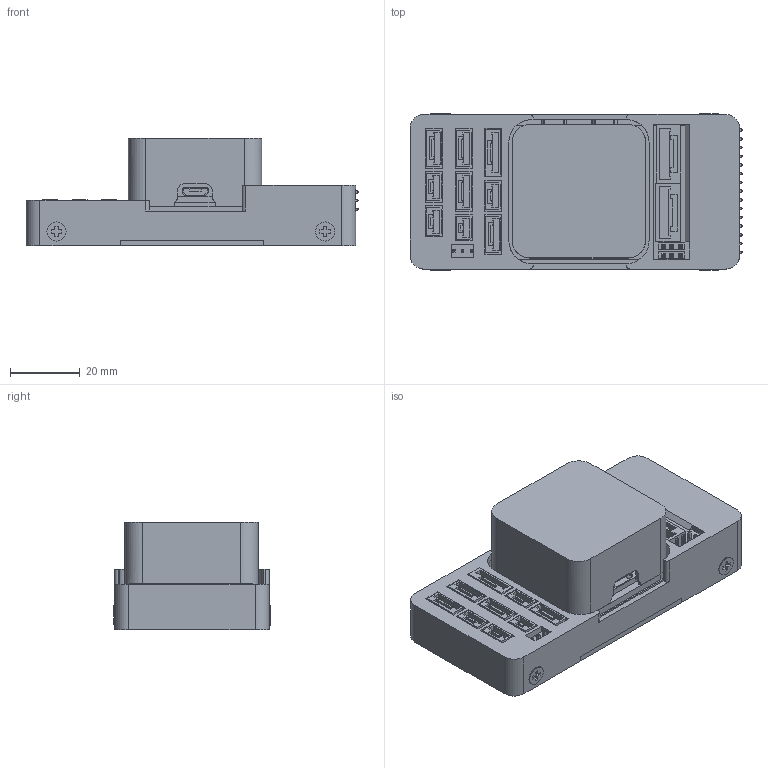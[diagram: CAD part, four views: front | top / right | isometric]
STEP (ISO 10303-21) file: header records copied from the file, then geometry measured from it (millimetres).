
FILE_DESCRIPTION(/* description */ (''),/* implementation_level */ '2;1');
FILE_NAME(/* name */ 'G:/Dokumenty/3D/Pixhawk_2.1/Pixhawk_2.1 v2.step',/* time_stamp */ '2021-04-26T11:07:55+02:00',/* author */ (''),/* organization */ (''),/* preprocessor_version */ 'ST-DEVELOPER v18.1',/* originating_system */ 'Autodesk Translation Framework v10.6.0.1341',/* authorisation */ '');
FILE_SCHEMA (('AUTOMOTIVE_DESIGN { 1 0 10303 214 3 1 1 }'));
Products named in the file (1): Pixhawk_2.1
Bounding box: 95.13 x 44.8 x 30.72 mm (x, y, z)
Volume: 32105.7 mm3; surface area: 50282.9 mm2
Topology: 85 solids, 85 shells, 2182 faces, 5349 edges, 3346 vertices
Faces by surface type: plane 1665, cylinder 285, bspline 224, cone 8
Full cylindrical faces by diameter (mm): 1.5 x4, 1.8 x8, 2 x16, 2.356 x16, 2.5 x4, 2.927 x34, 3 x4, 3.6 x8, 4 x4, 5 x4
Entity records: 80603 total; most frequent: CARTESIAN_POINT 31222, ORIENTED_EDGE 10706, DIRECTION 8802, EDGE_CURVE 5353, LINE 3990, VECTOR 3990, VERTEX_POINT 3346, AXIS2_PLACEMENT_3D 2406
